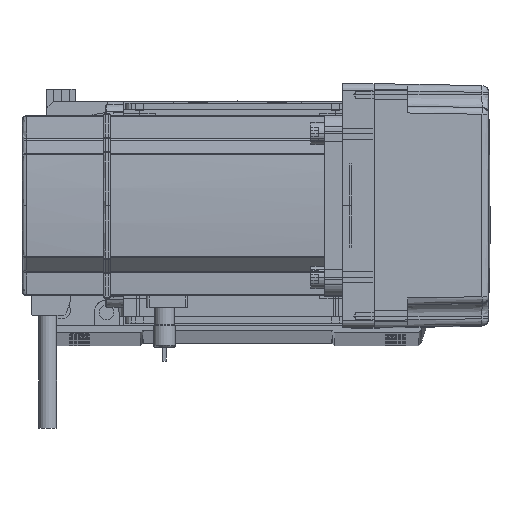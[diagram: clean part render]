
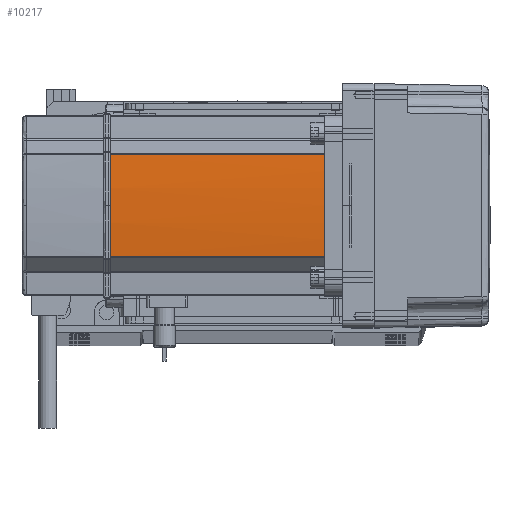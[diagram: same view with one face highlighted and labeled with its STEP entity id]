
A CAD part, top view. The second image highlights one B-rep face of the part: STEP entity #10217.
In plain terms, the highlighted cylindrical face has radius 270 mm (diameter 540 mm), a partial arc.
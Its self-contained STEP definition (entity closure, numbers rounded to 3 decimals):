
#2156 = CARTESIAN_POINT ( 'NONE',  ( -39.042, -22.724, 134. ) ) ;
#4061 = CARTESIAN_POINT ( 'NONE',  ( 230., 0., 39. ) ) ;
#5108 = CARTESIAN_POINT ( 'NONE',  ( 230., 0., 134. ) ) ;
#9304 = DIRECTION ( 'NONE',  ( 0., 0., -1. ) ) ;
#10217 = ADVANCED_FACE ( 'NONE', ( #56232 ), #23972, .T. ) ;
#11678 = CIRCLE ( 'NONE', #37918, 270. ) ;
#11761 = EDGE_CURVE ( 'NONE', #28710, #46210, #28622, .T. ) ;
#13116 = EDGE_CURVE ( 'NONE', #57368, #61898, #11678, .T. ) ;
#13594 = VERTEX_POINT ( 'NONE', #60411 ) ;
#14065 = DIRECTION ( 'NONE',  ( 0., 0., 1. ) ) ;
#20017 = AXIS2_PLACEMENT_3D ( 'NONE', #4061, #55380, #60084 ) ;
#20065 = CARTESIAN_POINT ( 'NONE',  ( -39.042, 22.724, 0. ) ) ;
#20505 = EDGE_CURVE ( 'NONE', #61898, #28710, #22764, .T. ) ;
#21846 = ORIENTED_EDGE ( 'NONE', *, *, #26772, .F. ) ;
#22764 = CIRCLE ( 'NONE', #42168, 270. ) ;
#23972 = CYLINDRICAL_SURFACE ( 'NONE', #27446, 270. ) ;
#24656 = DIRECTION ( 'NONE',  ( 0., 0., 1. ) ) ;
#26772 = EDGE_CURVE ( 'NONE', #13594, #46210, #28650, .T. ) ;
#27428 = EDGE_LOOP ( 'NONE', ( #57798, #30496, #43882, #21846, #33233 ) ) ;
#27446 = AXIS2_PLACEMENT_3D ( 'NONE', #60642, #14065, #29816 ) ;
#28495 = CARTESIAN_POINT ( 'NONE',  ( -39.042, -22.724, 0. ) ) ;
#28622 = LINE ( 'NONE', #20065, #30249 ) ;
#28650 = CIRCLE ( 'NONE', #20017, 270. ) ;
#28710 = VERTEX_POINT ( 'NONE', #43220 ) ;
#29816 = DIRECTION ( 'NONE',  ( 1., 0., 0. ) ) ;
#30249 = VECTOR ( 'NONE', #9304, 1000. ) ;
#30496 = ORIENTED_EDGE ( 'NONE', *, *, #20505, .T. ) ;
#30548 = DIRECTION ( 'NONE',  ( 0., 0., -1. ) ) ;
#33233 = ORIENTED_EDGE ( 'NONE', *, *, #41823, .T. ) ;
#33248 = DIRECTION ( 'NONE',  ( 1., 0., 0. ) ) ;
#37918 = AXIS2_PLACEMENT_3D ( 'NONE', #5108, #30548, #46289 ) ;
#41823 = EDGE_CURVE ( 'NONE', #13594, #57368, #46087, .T. ) ;
#42168 = AXIS2_PLACEMENT_3D ( 'NONE', #64104, #59158, #33248 ) ;
#43220 = CARTESIAN_POINT ( 'NONE',  ( -39.042, 22.724, 134. ) ) ;
#43882 = ORIENTED_EDGE ( 'NONE', *, *, #11761, .T. ) ;
#46087 = LINE ( 'NONE', #28495, #46886 ) ;
#46210 = VERTEX_POINT ( 'NONE', #54017 ) ;
#46289 = DIRECTION ( 'NONE',  ( 1., 0., 0. ) ) ;
#46886 = VECTOR ( 'NONE', #24656, 1000. ) ;
#47555 = CARTESIAN_POINT ( 'NONE',  ( -40., 0., 134. ) ) ;
#54017 = CARTESIAN_POINT ( 'NONE',  ( -39.042, 22.724, 39. ) ) ;
#55380 = DIRECTION ( 'NONE',  ( 0., 0., -1. ) ) ;
#56232 = FACE_OUTER_BOUND ( 'NONE', #27428, .T. ) ;
#57368 = VERTEX_POINT ( 'NONE', #2156 ) ;
#57798 = ORIENTED_EDGE ( 'NONE', *, *, #13116, .T. ) ;
#59158 = DIRECTION ( 'NONE',  ( 0., 0., -1. ) ) ;
#60084 = DIRECTION ( 'NONE',  ( 1., 0., 0. ) ) ;
#60411 = CARTESIAN_POINT ( 'NONE',  ( -39.042, -22.724, 39. ) ) ;
#60642 = CARTESIAN_POINT ( 'NONE',  ( 230., 0., 0. ) ) ;
#61898 = VERTEX_POINT ( 'NONE', #47555 ) ;
#64104 = CARTESIAN_POINT ( 'NONE',  ( 230., 0., 134. ) ) ;
